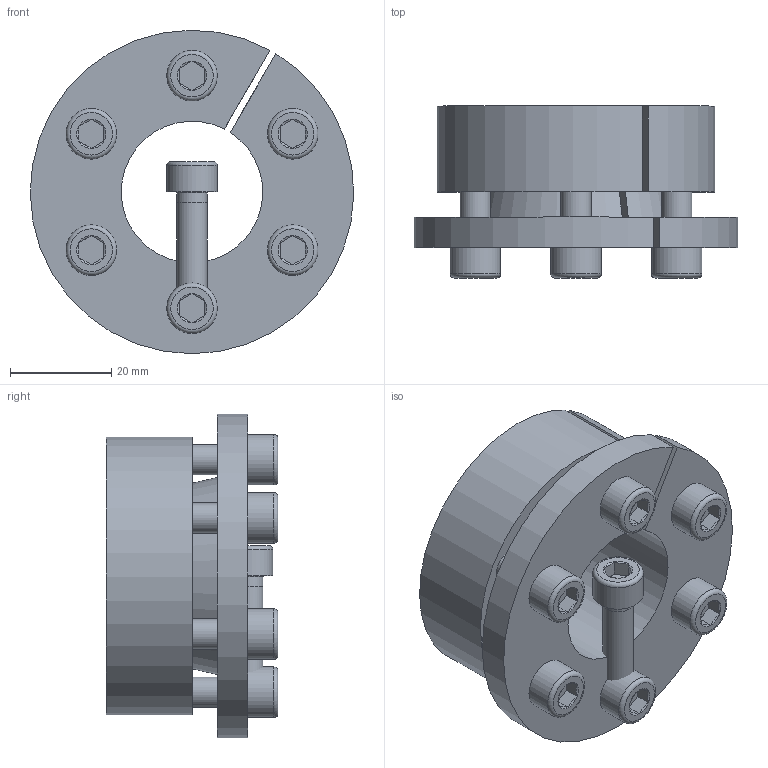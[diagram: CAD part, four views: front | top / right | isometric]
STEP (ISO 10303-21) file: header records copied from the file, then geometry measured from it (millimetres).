
FILE_DESCRIPTION( ( 'Unknown' ), '1' );
FILE_NAME( 'C:/Dokumente und Einstellungen/Sven/Desktop/homepage/cad - homepage/KBS16/KBS 16 - 28 x 55.stp', 'Unknown', ( 'Unknown' ), ( 'Unknown' ), 'XStep 1.0', 'Unknown', ' ' );
FILE_SCHEMA( ( 'automotive_design' ) );
Length unit declared in the file: millimetre
Products named in the file (3): Assem1; KBS 16 - 28 x 55; ISO EN DIN 4762 M6x20
Bounding box: 64 x 34 x 63.99 mm (x, y, z)
Volume: 93667.9 mm3; surface area: 40388.8 mm2
Topology: 9 solids, 9 shells, 223 faces, 445 edges, 268 vertices
Faces by surface type: plane 98, cylinder 58, cone 53, torus 14
Full cylindrical faces by diameter (mm): 5 x7, 6 x38, 10 x7
Entity records: 1626 total; most frequent: CARTESIAN_POINT 271, DIRECTION 244, ORIENTED_EDGE 178, AXIS2_PLACEMENT_3D 108, EDGE_LOOP 96, EDGE_CURVE 89, FACE_OUTER_BOUND 67, VERTEX_POINT 67
